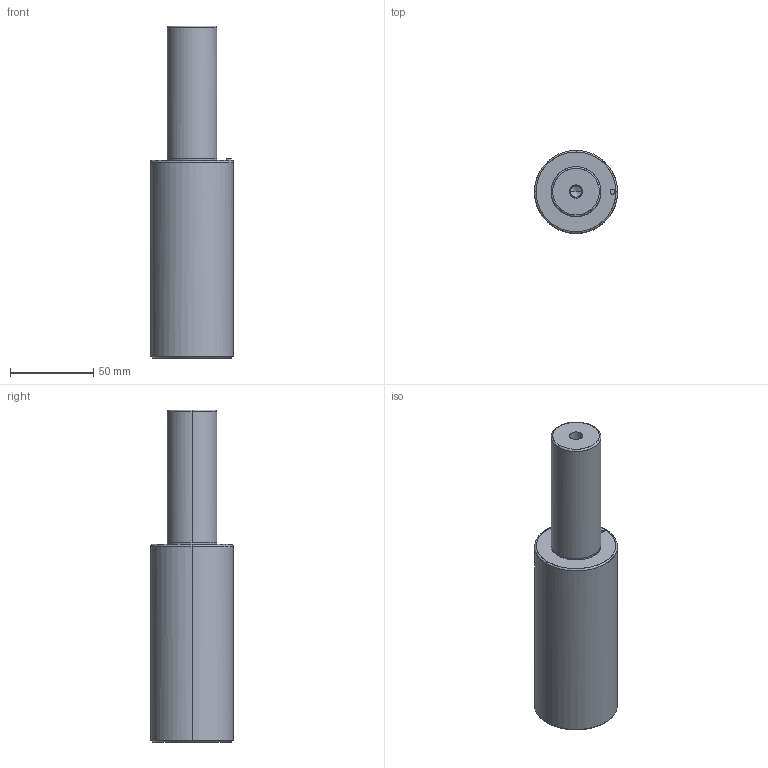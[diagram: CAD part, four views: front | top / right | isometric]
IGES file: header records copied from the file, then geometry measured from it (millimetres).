
Global section: file name: E:\UnigraphicsGraphicData\MISUMI_PRESS-PARTS\IGES\3d_gsc50-80_03822_r00.igs; native system: NX V5.0; preprocessor: UGS NX IGES V5.0; author: MISUMI; date: 20110105.160750; units: millimetre
Bounding box: 50 x 49.89 x 200 mm (x, y, z)
Surface area: 30946.5 mm2 (no closed solid volume)
Topology: 0 solids, 0 shells, 32 faces, 232 edges, 228 vertices
Faces by surface type: bspline 32
